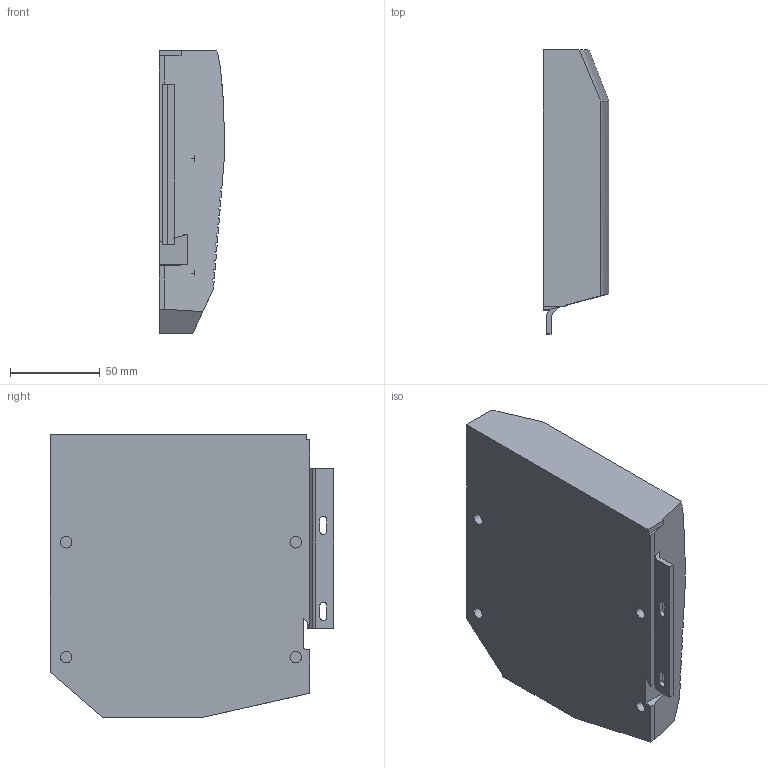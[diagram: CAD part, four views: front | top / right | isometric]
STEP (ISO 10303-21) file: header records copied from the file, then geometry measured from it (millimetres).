
FILE_DESCRIPTION (( 'STEP AP203' ), '1' );
FILE_NAME ('Kinvaro_T-70_links_D2712525325~0.step', '2012-05-04T06:49:06', ( 'admin' ), ( 'Hewlett-Packard Company' ), 'SwSTEP 2.0', 'SolidWorks 2011', '' );
FILE_SCHEMA (( 'CONFIG_CONTROL_DESIGN' ));
Length unit declared in the file: millimetre
Products named in the file (1): Kinvaro_T-70_links_D2712525325~0
Bounding box: 36.77 x 158.27 x 157.62 mm (x, y, z)
Volume: 689563.8 mm3; surface area: 65750.1 mm2
Topology: 1 solids, 1 shells, 117 faces, 328 edges, 217 vertices
Faces by surface type: plane 102, cylinder 13, bspline 2
Entity records: 4016 total; most frequent: CARTESIAN_POINT 902, ORIENTED_EDGE 656, DIRECTION 581, EDGE_CURVE 328, LINE 297, VECTOR 297, VERTEX_POINT 217, AXIS2_PLACEMENT_3D 142
